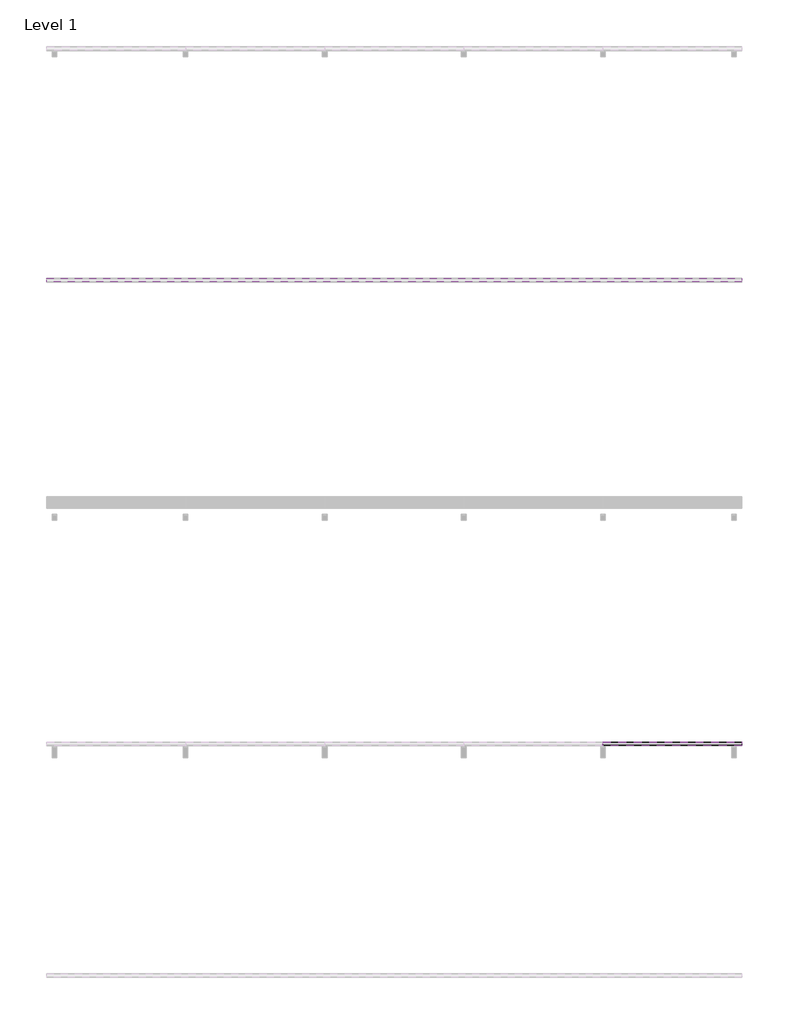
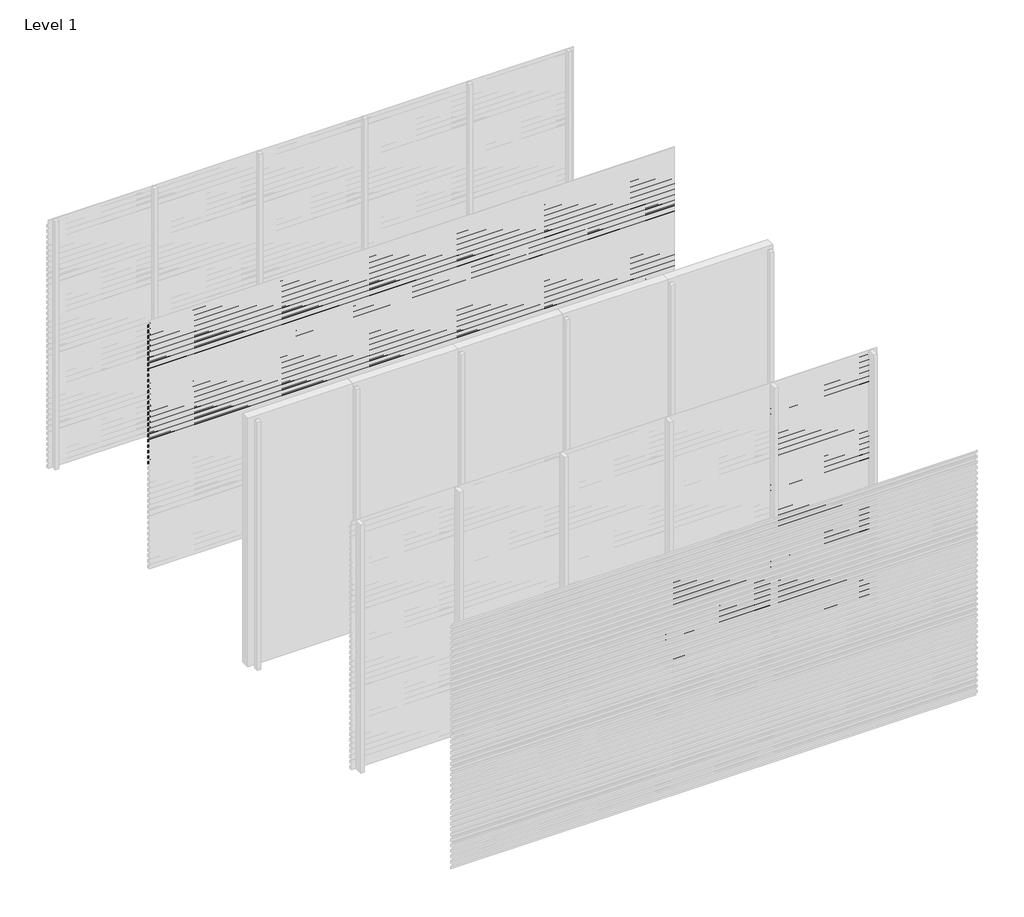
# One storey, part 15 of 33: 88 proxies.
"""IFC4 building model written with IfcOpenShell, lengths in millimetres."""

import ifcopenshell
import ifcopenshell.guid

model = None  # the IFC model being written
_history = None  # IfcOwnerHistory: only IFC2X3 demands one
_inside = {}  # id of a spatial element -> (the spatial element, [elements in it])
_under = {}  # id of a project, library or spatial element -> (it, [spatial elements below it])
_declared = {}  # id of a project -> (the project, [libraries it declares])
_typed = {}  # id of a type object -> (the type object, [elements of that type])
_made_of = {}  # id of a material, layer set ... -> (it, [elements and type objects made of it])


def new_model(schema):
    """Start an empty IFC model of exactly this schema.

    Asked for "IFC4X3", IfcOpenShell would pick the latest addendum, in which some entities
    have other attributes; the version numbers below select the first issue.
    IFC2X3 requires an IfcOwnerHistory on every rooted entity: one is made here for all.
    """
    global model, _history
    if schema == "IFC4X3":
        model = ifcopenshell.file(schema_version=(4, 3, 0, 0))
    else:
        model = ifcopenshell.file(schema=schema)
    _inside.clear()
    _under.clear()
    _declared.clear()
    _typed.clear()
    _made_of.clear()
    _history = None
    if model.schema == "IFC2X3":
        org = make("IfcOrganization", Name="unknown")
        user = make(
            "IfcPersonAndOrganization",
            ThePerson=make("IfcPerson", FamilyName="unknown"),
            TheOrganization=org,
        )
        app = make(
            "IfcApplication",
            ApplicationDeveloper=org,
            Version="unknown",
            ApplicationFullName="unknown",
            ApplicationIdentifier="unknown",
        )
        _history = make(
            "IfcOwnerHistory",
            OwningUser=user,
            OwningApplication=app,
            ChangeAction="ADDED",
            CreationDate=0,
        )
    return model


def make(cls, **values):
    """One entity of the class cls with the attributes given. An attribute that is None is left unset."""
    return model.create_entity(
        cls, **{name: value for name, value in values.items() if value is not None}
    )


def rooted(cls, **values):
    """An entity with a GlobalId (a new one), such as an element, a storey or a relation."""
    return make(cls, GlobalId=ifcopenshell.guid.new(), OwnerHistory=_history, **values)


def si_unit(unit_type, name, prefix=None):
    """IfcSIUnit, for example si_unit("LENGTHUNIT", "METRE", prefix="MILLI")."""
    return make("IfcSIUnit", UnitType=unit_type, Prefix=prefix, Name=name)


def assignment(units):
    """IfcUnitAssignment: the units of a project."""
    return None if units is None else make("IfcUnitAssignment", Units=units)


def point(xyz):
    """IfcCartesianPoint."""
    return None if xyz is None else make("IfcCartesianPoint", Coordinates=xyz)


def direction(xyz):
    """IfcDirection."""
    return None if xyz is None else make("IfcDirection", DirectionRatios=xyz)


def frame(location, z_axis=None, x_axis=None):
    """IfcAxis2Placement3D, a coordinate frame: its origin and axes. An axis left out is left unset."""
    return make(
        "IfcAxis2Placement3D",
        Location=point(location),
        Axis=direction(z_axis),
        RefDirection=direction(x_axis),
    )


def origin():
    """The frame at (0, 0, 0) with its axes left unset."""
    return frame((0.0, 0.0, 0.0))


def place(relative_to, where):
    """IfcLocalPlacement: puts the frame where relative to a parent placement (None: the world)."""
    return make(
        "IfcLocalPlacement", PlacementRelTo=relative_to, RelativePlacement=where
    )


def context(
    kind, dimensions, precision=None, world=None, true_north=None, identifier=None
):
    """IfcGeometricRepresentationContext, for example the 3D "Model" context."""
    return make(
        "IfcGeometricRepresentationContext",
        ContextIdentifier=identifier,
        ContextType=kind,
        CoordinateSpaceDimension=dimensions,
        Precision=precision,
        WorldCoordinateSystem=world,
        TrueNorth=true_north,
    )


def project(units=None, contexts=None):
    """IfcProject with its units and contexts."""
    return rooted(
        "IfcProject",
        Name="project",
        RepresentationContexts=contexts,
        UnitsInContext=assignment(units),
    )


def spatial(cls, under=None, at=None, **own):
    """A site, building, storey or space (cls), placed at a placement, below another one or the project."""
    s = rooted(cls, ObjectPlacement=at, **own)
    if under is not None:
        _under.setdefault(under.id(), (under, []))[1].append(s)
    return s


def polyline(points):
    """IfcPolyline through the points."""
    return make("IfcPolyline", Points=[point(p) for p in points])


def outline(outer, holes=None, kind="AREA"):
    """IfcArbitraryClosedProfileDef: a profile drawn as a closed curve; with holes, ...WithVoids."""
    if holes is None:
        return make("IfcArbitraryClosedProfileDef", ProfileType=kind, OuterCurve=outer)
    return make(
        "IfcArbitraryProfileDefWithVoids",
        ProfileType=kind,
        OuterCurve=outer,
        InnerCurves=holes,
    )


def extrude(swept, where, along, depth):
    """IfcExtrudedAreaSolid: the profile swept, set in the frame where, extruded along a direction by depth."""
    return make(
        "IfcExtrudedAreaSolid",
        SweptArea=swept,
        Position=where,
        ExtrudedDirection=direction(along),
        Depth=depth,
    )


def shape(context_of_items, identifier, shape_type, items):
    """IfcShapeRepresentation: the items that make up one representation, for example the "Body"."""
    return make(
        "IfcShapeRepresentation",
        ContextOfItems=context_of_items,
        RepresentationIdentifier=identifier,
        RepresentationType=shape_type,
        Items=items,
    )


def made_of(thing, what):
    """Note that an element or type object is made of a material, layer set ...; save() writes the relation."""
    if what is not None:
        _made_of.setdefault(what.id(), (what, []))[1].append(thing)
    return thing


def element(
    cls,
    number,
    at=None,
    inside=None,
    cuts=None,
    type_object=None,
    material=None,
    context=None,
    identifier="Body",
    shape_type=None,
    held_by="IfcProductDefinitionShape",
    body=None,
    shapes=None,
    **own,
):
    """One element of the class cls, such as IfcWall. Its Tag is "e" and its number.

    at: its placement. inside: the storey or other place that contains it. cuts: it is an
    opening in that element (IfcRelVoidsElement). A single representation is given by context,
    identifier, shape_type and body (its items); several are given by shapes. held_by: the class
    of the entity that holds the representations. save() writes the other relations.
    """
    e = rooted(cls, Tag="e%d" % number, ObjectPlacement=at, **own)
    if body is not None:
        shapes = [shape(context, identifier, shape_type, body)]
    if shapes is not None:
        e.Representation = make(held_by, Representations=shapes)
    if inside is not None:
        _inside.setdefault(inside.id(), (inside, []))[1].append(e)
    if cuts is not None:
        rooted(
            "IfcRelVoidsElement", RelatingBuildingElement=cuts, RelatedOpeningElement=e
        )
    if type_object is not None:
        _typed.setdefault(type_object.id(), (type_object, []))[1].append(e)
    return made_of(e, material)


def aggregate(whole, parts):
    """IfcRelAggregates: a whole, such as a stair, and the parts it consists of."""
    return rooted("IfcRelAggregates", RelatingObject=whole, RelatedObjects=parts)


def save(model, path):
    """Write the relations noted so far, then the file.

    IfcRelAggregates (storeys below a building ...), IfcRelContainedInSpatialStructure (elements
    in a storey), IfcRelDefinesByType, IfcRelAssociatesMaterial and IfcRelDeclares: one each for
    every whole, place, type object, material and project.
    """
    for whole, parts in _under.values():
        aggregate(whole, parts)
    for where, things in _inside.values():
        rooted(
            "IfcRelContainedInSpatialStructure",
            RelatedElements=things,
            RelatingStructure=where,
        )
    for kind, things in _typed.values():
        rooted("IfcRelDefinesByType", RelatedObjects=things, RelatingType=kind)
    for what, things in _made_of.values():
        rooted("IfcRelAssociatesMaterial", RelatedObjects=things, RelatingMaterial=what)
    for by, libraries in _declared.values():
        rooted("IfcRelDeclares", RelatingContext=by, RelatedDefinitions=libraries)
    model.write(path)


model = new_model("IFC4")

# Units and contexts
model_context = context("Model", 3, world=origin())
ifc_project = project(units=[si_unit("LENGTHUNIT", "METRE", prefix="MILLI")], contexts=[model_context])

# Site, building, storey
site = spatial("IfcSite", under=ifc_project)
building = spatial("IfcBuilding", under=site)
storey = spatial("IfcBuildingStorey", under=building, Name="Level 1", Elevation=0.0)

# Proxies
placement = place(None, origin())
element("IfcBuildingElementProxy", 1, Name="Wall Sweeps", at=placement, inside=storey, context=model_context, shape_type="SweptSolid", body=[
    extrude(outline(polyline([(-31967.0, 2930.0), (-31967.0, 2897.0), (-31968.25, 2897.7216933), (-31968.25, 2929.2872415), (-31998.0, 2950.0588647), (-31998.0, 2970.0), (-31996.75, 2970.0), (-31996.75, 2950.7716232), (-31967.0, 2930.0)])), frame((0.0, 0.0, 0.0), z_axis=(1.0, 0.0, 0.0), x_axis=(0.0, 1.0, 0.0)), (0.0, 0.0, 1.0), 6000.0),
])
element("IfcBuildingElementProxy", 2, Name="Wall Sweeps", at=placement, inside=storey, context=model_context, shape_type="SweptSolid", body=[
    extrude(outline(polyline([(-31967.0, 2864.0), (-31967.0, 2831.0), (-31968.25, 2831.7216933), (-31968.25, 2863.2872415), (-31998.0, 2884.0588647), (-31998.0, 2904.0), (-31996.75, 2904.0), (-31996.75, 2884.7716232), (-31967.0, 2864.0)])), frame((0.0, 0.0, 0.0), z_axis=(1.0, 0.0, 0.0), x_axis=(0.0, 1.0, 0.0)), (0.0, 0.0, 1.0), 6000.0),
])
element("IfcBuildingElementProxy", 3, Name="Wall Sweeps", at=placement, inside=storey, context=model_context, shape_type="SweptSolid", body=[
    extrude(outline(polyline([(-31967.0, 2798.0), (-31967.0, 2765.0), (-31968.25, 2765.7216933), (-31968.25, 2797.2872415), (-31998.0, 2818.0588647), (-31998.0, 2838.0), (-31996.75, 2838.0), (-31996.75, 2818.7716232), (-31967.0, 2798.0)])), frame((0.0, 0.0, 0.0), z_axis=(1.0, 0.0, 0.0), x_axis=(0.0, 1.0, 0.0)), (0.0, 0.0, 1.0), 6000.0),
])
element("IfcBuildingElementProxy", 4, Name="Wall Sweeps", at=placement, inside=storey, context=model_context, shape_type="SweptSolid", body=[
    extrude(outline(polyline([(-31967.0, 2732.0), (-31967.0, 2699.0), (-31968.25, 2699.7216933), (-31968.25, 2731.2872415), (-31998.0, 2752.0588647), (-31998.0, 2772.0), (-31996.75, 2772.0), (-31996.75, 2752.7716232), (-31967.0, 2732.0)])), frame((0.0, 0.0, 0.0), z_axis=(1.0, 0.0, 0.0), x_axis=(0.0, 1.0, 0.0)), (0.0, 0.0, 1.0), 6000.0),
])
element("IfcBuildingElementProxy", 5, Name="Wall Sweeps", at=placement, inside=storey, context=model_context, shape_type="SweptSolid", body=[
    extrude(outline(polyline([(-31967.0, 2666.0), (-31967.0, 2633.0), (-31968.25, 2633.7216933), (-31968.25, 2665.2872415), (-31998.0, 2686.0588647), (-31998.0, 2706.0), (-31996.75, 2706.0), (-31996.75, 2686.7716232), (-31967.0, 2666.0)])), frame((0.0, 0.0, 0.0), z_axis=(1.0, 0.0, 0.0), x_axis=(0.0, 1.0, 0.0)), (0.0, 0.0, 1.0), 6000.0),
])
element("IfcBuildingElementProxy", 6, Name="Wall Sweeps", at=placement, inside=storey, context=model_context, shape_type="SweptSolid", body=[
    extrude(outline(polyline([(-31967.0, 2600.0), (-31967.0, 2567.0), (-31968.25, 2567.7216933), (-31968.25, 2599.2872415), (-31998.0, 2620.0588647), (-31998.0, 2640.0), (-31996.75, 2640.0), (-31996.75, 2620.7716232), (-31967.0, 2600.0)])), frame((0.0, 0.0, 0.0), z_axis=(1.0, 0.0, 0.0), x_axis=(0.0, 1.0, 0.0)), (0.0, 0.0, 1.0), 6000.0),
])
element("IfcBuildingElementProxy", 7, Name="Wall Sweeps", at=placement, inside=storey, context=model_context, shape_type="SweptSolid", body=[
    extrude(outline(polyline([(-31967.0, 2534.0), (-31967.0, 2501.0), (-31968.25, 2501.7216933), (-31968.25, 2533.2872415), (-31998.0, 2554.0588647), (-31998.0, 2574.0), (-31996.75, 2574.0), (-31996.75, 2554.7716232), (-31967.0, 2534.0)])), frame((0.0, 0.0, 0.0), z_axis=(1.0, 0.0, 0.0), x_axis=(0.0, 1.0, 0.0)), (0.0, 0.0, 1.0), 6000.0),
])
element("IfcBuildingElementProxy", 8, Name="Wall Sweeps", at=placement, inside=storey, context=model_context, shape_type="SweptSolid", body=[
    extrude(outline(polyline([(-31967.0, 2468.0), (-31967.0, 2435.0), (-31968.25, 2435.7216933), (-31968.25, 2467.2872415), (-31998.0, 2488.0588647), (-31998.0, 2508.0), (-31996.75, 2508.0), (-31996.75, 2488.7716232), (-31967.0, 2468.0)])), frame((0.0, 0.0, 0.0), z_axis=(1.0, 0.0, 0.0), x_axis=(0.0, 1.0, 0.0)), (0.0, 0.0, 1.0), 6000.0),
])
element("IfcBuildingElementProxy", 9, Name="Wall Sweeps", at=placement, inside=storey, context=model_context, shape_type="SweptSolid", body=[
    extrude(outline(polyline([(-31967.0, 2402.0), (-31967.0, 2369.0), (-31968.25, 2369.7216933), (-31968.25, 2401.2872415), (-31998.0, 2422.0588647), (-31998.0, 2442.0), (-31996.75, 2442.0), (-31996.75, 2422.7716232), (-31967.0, 2402.0)])), frame((0.0, 0.0, 0.0), z_axis=(1.0, 0.0, 0.0), x_axis=(0.0, 1.0, 0.0)), (0.0, 0.0, 1.0), 6000.0),
])
element("IfcBuildingElementProxy", 10, Name="Wall Sweeps", at=placement, inside=storey, context=model_context, shape_type="SweptSolid", body=[
    extrude(outline(polyline([(-31967.0, 2336.0), (-31967.0, 2303.0), (-31968.25, 2303.7216933), (-31968.25, 2335.2872415), (-31998.0, 2356.0588647), (-31998.0, 2376.0), (-31996.75, 2376.0), (-31996.75, 2356.7716232), (-31967.0, 2336.0)])), frame((0.0, 0.0, 0.0), z_axis=(1.0, 0.0, 0.0), x_axis=(0.0, 1.0, 0.0)), (0.0, 0.0, 1.0), 6000.0),
])
element("IfcBuildingElementProxy", 11, Name="Wall Sweeps", at=placement, inside=storey, context=model_context, shape_type="SweptSolid", body=[
    extrude(outline(polyline([(-31967.0, 2270.0), (-31967.0, 2237.0), (-31968.25, 2237.7216933), (-31968.25, 2269.2872415), (-31998.0, 2290.0588647), (-31998.0, 2310.0), (-31996.75, 2310.0), (-31996.75, 2290.7716232), (-31967.0, 2270.0)])), frame((0.0, 0.0, 0.0), z_axis=(1.0, 0.0, 0.0), x_axis=(0.0, 1.0, 0.0)), (0.0, 0.0, 1.0), 6000.0),
])
element("IfcBuildingElementProxy", 12, Name="Wall Sweeps", at=placement, inside=storey, context=model_context, shape_type="SweptSolid", body=[
    extrude(outline(polyline([(-31967.0, 2204.0), (-31967.0, 2171.0), (-31968.25, 2171.7216933), (-31968.25, 2203.2872415), (-31998.0, 2224.0588647), (-31998.0, 2244.0), (-31996.75, 2244.0), (-31996.75, 2224.7716232), (-31967.0, 2204.0)])), frame((0.0, 0.0, 0.0), z_axis=(1.0, 0.0, 0.0), x_axis=(0.0, 1.0, 0.0)), (0.0, 0.0, 1.0), 6000.0),
])
element("IfcBuildingElementProxy", 13, Name="Wall Sweeps", at=placement, inside=storey, context=model_context, shape_type="SweptSolid", body=[
    extrude(outline(polyline([(-31967.0, 2138.0), (-31967.0, 2105.0), (-31968.25, 2105.7216933), (-31968.25, 2137.2872415), (-31998.0, 2158.0588647), (-31998.0, 2178.0), (-31996.75, 2178.0), (-31996.75, 2158.7716232), (-31967.0, 2138.0)])), frame((0.0, 0.0, 0.0), z_axis=(1.0, 0.0, 0.0), x_axis=(0.0, 1.0, 0.0)), (0.0, 0.0, 1.0), 6000.0),
])
element("IfcBuildingElementProxy", 14, Name="Wall Sweeps", at=placement, inside=storey, context=model_context, shape_type="SweptSolid", body=[
    extrude(outline(polyline([(-31967.0, 2072.0), (-31967.0, 2039.0), (-31968.25, 2039.7216933), (-31968.25, 2071.2872415), (-31998.0, 2092.0588647), (-31998.0, 2112.0), (-31996.75, 2112.0), (-31996.75, 2092.7716232), (-31967.0, 2072.0)])), frame((0.0, 0.0, 0.0), z_axis=(1.0, 0.0, 0.0), x_axis=(0.0, 1.0, 0.0)), (0.0, 0.0, 1.0), 6000.0),
])
element("IfcBuildingElementProxy", 15, Name="Wall Sweeps", at=placement, inside=storey, context=model_context, shape_type="SweptSolid", body=[
    extrude(outline(polyline([(-31967.0, 2006.0), (-31967.0, 1973.0), (-31968.25, 1973.7216933), (-31968.25, 2005.2872415), (-31998.0, 2026.0588647), (-31998.0, 2046.0), (-31996.75, 2046.0), (-31996.75, 2026.7716232), (-31967.0, 2006.0)])), frame((0.0, 0.0, 0.0), z_axis=(1.0, 0.0, 0.0), x_axis=(0.0, 1.0, 0.0)), (0.0, 0.0, 1.0), 6000.0),
])
element("IfcBuildingElementProxy", 16, Name="Wall Sweeps", at=placement, inside=storey, context=model_context, shape_type="SweptSolid", body=[
    extrude(outline(polyline([(-31967.0, 1940.0), (-31967.0, 1907.0), (-31968.25, 1907.7216933), (-31968.25, 1939.2872415), (-31998.0, 1960.0588647), (-31998.0, 1980.0), (-31996.75, 1980.0), (-31996.75, 1960.7716232), (-31967.0, 1940.0)])), frame((0.0, 0.0, 0.0), z_axis=(1.0, 0.0, 0.0), x_axis=(0.0, 1.0, 0.0)), (0.0, 0.0, 1.0), 6000.0),
])
element("IfcBuildingElementProxy", 17, Name="Wall Sweeps", at=placement, inside=storey, context=model_context, shape_type="SweptSolid", body=[
    extrude(outline(polyline([(-31967.0, 1874.0), (-31967.0, 1841.0), (-31968.25, 1841.7216933), (-31968.25, 1873.2872415), (-31998.0, 1894.0588647), (-31998.0, 1914.0), (-31996.75, 1914.0), (-31996.75, 1894.7716232), (-31967.0, 1874.0)])), frame((0.0, 0.0, 0.0), z_axis=(1.0, 0.0, 0.0), x_axis=(0.0, 1.0, 0.0)), (0.0, 0.0, 1.0), 6000.0),
])
element("IfcBuildingElementProxy", 18, Name="Wall Sweeps", at=placement, inside=storey, context=model_context, shape_type="SweptSolid", body=[
    extrude(outline(polyline([(-31967.0, 1808.0), (-31967.0, 1775.0), (-31968.25, 1775.7216933), (-31968.25, 1807.2872415), (-31998.0, 1828.0588647), (-31998.0, 1848.0), (-31996.75, 1848.0), (-31996.75, 1828.7716232), (-31967.0, 1808.0)])), frame((0.0, 0.0, 0.0), z_axis=(1.0, 0.0, 0.0), x_axis=(0.0, 1.0, 0.0)), (0.0, 0.0, 1.0), 6000.0),
])
element("IfcBuildingElementProxy", 19, Name="Wall Sweeps", at=placement, inside=storey, context=model_context, shape_type="SweptSolid", body=[
    extrude(outline(polyline([(-31967.0, 1742.0), (-31967.0, 1709.0), (-31968.25, 1709.7216933), (-31968.25, 1741.2872415), (-31998.0, 1762.0588647), (-31998.0, 1782.0), (-31996.75, 1782.0), (-31996.75, 1762.7716232), (-31967.0, 1742.0)])), frame((0.0, 0.0, 0.0), z_axis=(1.0, 0.0, 0.0), x_axis=(0.0, 1.0, 0.0)), (0.0, 0.0, 1.0), 6000.0),
])
element("IfcBuildingElementProxy", 20, Name="Wall Sweeps", at=placement, inside=storey, context=model_context, shape_type="SweptSolid", body=[
    extrude(outline(polyline([(-31967.0, 1676.0), (-31967.0, 1643.0), (-31968.25, 1643.7216933), (-31968.25, 1675.2872415), (-31998.0, 1696.0588647), (-31998.0, 1716.0), (-31996.75, 1716.0), (-31996.75, 1696.7716232), (-31967.0, 1676.0)])), frame((0.0, 0.0, 0.0), z_axis=(1.0, 0.0, 0.0), x_axis=(0.0, 1.0, 0.0)), (0.0, 0.0, 1.0), 6000.0),
])
element("IfcBuildingElementProxy", 21, Name="Wall Sweeps", at=placement, inside=storey, context=model_context, shape_type="SweptSolid", body=[
    extrude(outline(polyline([(-31967.0, 1610.0), (-31967.0, 1577.0), (-31968.25, 1577.7216933), (-31968.25, 1609.2872415), (-31998.0, 1630.0588647), (-31998.0, 1650.0), (-31996.75, 1650.0), (-31996.75, 1630.7716232), (-31967.0, 1610.0)])), frame((0.0, 0.0, 0.0), z_axis=(1.0, 0.0, 0.0), x_axis=(0.0, 1.0, 0.0)), (0.0, 0.0, 1.0), 6000.0),
])
element("IfcBuildingElementProxy", 22, Name="Wall Sweeps", at=placement, inside=storey, context=model_context, shape_type="SweptSolid", body=[
    extrude(outline(polyline([(-31967.0, 1544.0), (-31967.0, 1511.0), (-31968.25, 1511.7216933), (-31968.25, 1543.2872415), (-31998.0, 1564.0588647), (-31998.0, 1584.0), (-31996.75, 1584.0), (-31996.75, 1564.7716232), (-31967.0, 1544.0)])), frame((0.0, 0.0, 0.0), z_axis=(1.0, 0.0, 0.0), x_axis=(0.0, 1.0, 0.0)), (0.0, 0.0, 1.0), 6000.0),
])
element("IfcBuildingElementProxy", 23, Name="Wall Sweeps", at=placement, inside=storey, context=model_context, shape_type="SweptSolid", body=[
    extrude(outline(polyline([(-31967.0, 1478.0), (-31967.0, 1445.0), (-31968.25, 1445.7216933), (-31968.25, 1477.2872415), (-31998.0, 1498.0588647), (-31998.0, 1518.0), (-31996.75, 1518.0), (-31996.75, 1498.7716232), (-31967.0, 1478.0)])), frame((0.0, 0.0, 0.0), z_axis=(1.0, 0.0, 0.0), x_axis=(0.0, 1.0, 0.0)), (0.0, 0.0, 1.0), 6000.0),
])
element("IfcBuildingElementProxy", 24, Name="Wall Sweeps", at=placement, inside=storey, context=model_context, shape_type="SweptSolid", body=[
    extrude(outline(polyline([(-31967.0, 1412.0), (-31967.0, 1379.0), (-31968.25, 1379.7216933), (-31968.25, 1411.2872415), (-31998.0, 1432.0588647), (-31998.0, 1452.0), (-31996.75, 1452.0), (-31996.75, 1432.7716232), (-31967.0, 1412.0)])), frame((0.0, 0.0, 0.0), z_axis=(1.0, 0.0, 0.0), x_axis=(0.0, 1.0, 0.0)), (0.0, 0.0, 1.0), 6000.0),
])
element("IfcBuildingElementProxy", 25, Name="Wall Sweeps", at=placement, inside=storey, context=model_context, shape_type="SweptSolid", body=[
    extrude(outline(polyline([(-31967.0, 1346.0), (-31967.0, 1313.0), (-31968.25, 1313.7216933), (-31968.25, 1345.2872415), (-31998.0, 1366.0588647), (-31998.0, 1386.0), (-31996.75, 1386.0), (-31996.75, 1366.7716232), (-31967.0, 1346.0)])), frame((0.0, 0.0, 0.0), z_axis=(1.0, 0.0, 0.0), x_axis=(0.0, 1.0, 0.0)), (0.0, 0.0, 1.0), 6000.0),
])
element("IfcBuildingElementProxy", 26, Name="Wall Sweeps", at=placement, inside=storey, context=model_context, shape_type="SweptSolid", body=[
    extrude(outline(polyline([(-31967.0, 1280.0), (-31967.0, 1247.0), (-31968.25, 1247.7216933), (-31968.25, 1279.2872415), (-31998.0, 1300.0588647), (-31998.0, 1320.0), (-31996.75, 1320.0), (-31996.75, 1300.7716232), (-31967.0, 1280.0)])), frame((0.0, 0.0, 0.0), z_axis=(1.0, 0.0, 0.0), x_axis=(0.0, 1.0, 0.0)), (0.0, 0.0, 1.0), 6000.0),
])
element("IfcBuildingElementProxy", 27, Name="Wall Sweeps", at=placement, inside=storey, context=model_context, shape_type="SweptSolid", body=[
    extrude(outline(polyline([(-35967.0, 1082.0), (-35967.0, 1049.0), (-35968.25, 1049.7216933), (-35968.25, 1081.2872415), (-35998.0, 1102.0588647), (-35998.0, 1122.0), (-35996.75, 1122.0), (-35996.75, 1102.7716232), (-35967.0, 1082.0)])), frame((3600.0, 0.0, 0.0), z_axis=(1.0, 0.0, 0.0), x_axis=(0.0, 1.0, 0.0)), (0.0, 0.0, 1.0), 1200.0),
])
element("IfcBuildingElementProxy", 28, Name="Wall Sweeps", at=placement, inside=storey, context=model_context, shape_type="SweptSolid", body=[
    extrude(outline(polyline([(-35967.0, 1016.0), (-35967.0, 983.0), (-35968.25, 983.7216933), (-35968.25, 1015.2872415), (-35998.0, 1036.0588647), (-35998.0, 1056.0), (-35996.75, 1056.0), (-35996.75, 1036.7716232), (-35967.0, 1016.0)])), frame((3600.0, 0.0, 0.0), z_axis=(1.0, 0.0, 0.0), x_axis=(0.0, 1.0, 0.0)), (0.0, 0.0, 1.0), 1200.0),
])
element("IfcBuildingElementProxy", 29, Name="Wall Sweeps", at=placement, inside=storey, context=model_context, shape_type="SweptSolid", body=[
    extrude(outline(polyline([(-35967.0, 950.0), (-35967.0, 917.0), (-35968.25, 917.7216933), (-35968.25, 949.2872415), (-35998.0, 970.0588647), (-35998.0, 990.0), (-35996.75, 990.0), (-35996.75, 970.7716232), (-35967.0, 950.0)])), frame((3600.0, 0.0, 0.0), z_axis=(1.0, 0.0, 0.0), x_axis=(0.0, 1.0, 0.0)), (0.0, 0.0, 1.0), 1200.0),
])
element("IfcBuildingElementProxy", 30, Name="Wall Sweeps", at=placement, inside=storey, context=model_context, shape_type="SweptSolid", body=[
    extrude(outline(polyline([(-35967.0, 884.0), (-35967.0, 851.0), (-35968.25, 851.7216933), (-35968.25, 883.2872415), (-35998.0, 904.0588647), (-35998.0, 924.0), (-35996.75, 924.0), (-35996.75, 904.7716232), (-35967.0, 884.0)])), frame((3600.0, 0.0, 0.0), z_axis=(1.0, 0.0, 0.0), x_axis=(0.0, 1.0, 0.0)), (0.0, 0.0, 1.0), 1200.0),
])
element("IfcBuildingElementProxy", 31, Name="Wall Sweeps", at=placement, inside=storey, context=model_context, shape_type="SweptSolid", body=[
    extrude(outline(polyline([(-35967.0, 818.0), (-35967.0, 785.0), (-35968.25, 785.7216933), (-35968.25, 817.2872415), (-35998.0, 838.0588647), (-35998.0, 858.0), (-35996.75, 858.0), (-35996.75, 838.7716232), (-35967.0, 818.0)])), frame((3600.0, 0.0, 0.0), z_axis=(1.0, 0.0, 0.0), x_axis=(0.0, 1.0, 0.0)), (0.0, 0.0, 1.0), 1200.0),
])
element("IfcBuildingElementProxy", 32, Name="Wall Sweeps", at=placement, inside=storey, context=model_context, shape_type="SweptSolid", body=[
    extrude(outline(polyline([(-35967.0, 752.0), (-35967.0, 719.0), (-35968.25, 719.7216933), (-35968.25, 751.2872415), (-35998.0, 772.0588647), (-35998.0, 792.0), (-35996.75, 792.0), (-35996.75, 772.7716232), (-35967.0, 752.0)])), frame((3600.0, 0.0, 0.0), z_axis=(1.0, 0.0, 0.0), x_axis=(0.0, 1.0, 0.0)), (0.0, 0.0, 1.0), 1200.0),
])
element("IfcBuildingElementProxy", 33, Name="Wall Sweeps", at=placement, inside=storey, context=model_context, shape_type="SweptSolid", body=[
    extrude(outline(polyline([(-35967.0, 686.0), (-35967.0, 653.0), (-35968.25, 653.7216933), (-35968.25, 685.2872415), (-35998.0, 706.0588647), (-35998.0, 726.0), (-35996.75, 726.0), (-35996.75, 706.7716232), (-35967.0, 686.0)])), frame((3600.0, 0.0, 0.0), z_axis=(1.0, 0.0, 0.0), x_axis=(0.0, 1.0, 0.0)), (0.0, 0.0, 1.0), 1200.0),
])
element("IfcBuildingElementProxy", 34, Name="Wall Sweeps", at=placement, inside=storey, context=model_context, shape_type="SweptSolid", body=[
    extrude(outline(polyline([(-35967.0, 620.0), (-35967.0, 587.0), (-35968.25, 587.7216933), (-35968.25, 619.2872415), (-35998.0, 640.0588647), (-35998.0, 660.0), (-35996.75, 660.0), (-35996.75, 640.7716232), (-35967.0, 620.0)])), frame((3600.0, 0.0, 0.0), z_axis=(1.0, 0.0, 0.0), x_axis=(0.0, 1.0, 0.0)), (0.0, 0.0, 1.0), 1200.0),
])
element("IfcBuildingElementProxy", 35, Name="Wall Sweeps", at=placement, inside=storey, context=model_context, shape_type="SweptSolid", body=[
    extrude(outline(polyline([(-35967.0, 554.0), (-35967.0, 521.0), (-35968.25, 521.7216933), (-35968.25, 553.2872415), (-35998.0, 574.0588647), (-35998.0, 594.0), (-35996.75, 594.0), (-35996.75, 574.7716232), (-35967.0, 554.0)])), frame((3600.0, 0.0, 0.0), z_axis=(1.0, 0.0, 0.0), x_axis=(0.0, 1.0, 0.0)), (0.0, 0.0, 1.0), 1200.0),
])
element("IfcBuildingElementProxy", 36, Name="Wall Sweeps", at=placement, inside=storey, context=model_context, shape_type="SweptSolid", body=[
    extrude(outline(polyline([(-35967.0, 488.0), (-35967.0, 455.0), (-35968.25, 455.7216933), (-35968.25, 487.2872415), (-35998.0, 508.0588647), (-35998.0, 528.0), (-35996.75, 528.0), (-35996.75, 508.7716232), (-35967.0, 488.0)])), frame((3600.0, 0.0, 0.0), z_axis=(1.0, 0.0, 0.0), x_axis=(0.0, 1.0, 0.0)), (0.0, 0.0, 1.0), 1200.0),
])
element("IfcBuildingElementProxy", 37, Name="Wall Sweeps", at=placement, inside=storey, context=model_context, shape_type="SweptSolid", body=[
    extrude(outline(polyline([(-35967.0, 422.0), (-35967.0, 389.0), (-35968.25, 389.7216933), (-35968.25, 421.2872415), (-35998.0, 442.0588647), (-35998.0, 462.0), (-35996.75, 462.0), (-35996.75, 442.7716232), (-35967.0, 422.0)])), frame((3600.0, 0.0, 0.0), z_axis=(1.0, 0.0, 0.0), x_axis=(0.0, 1.0, 0.0)), (0.0, 0.0, 1.0), 1200.0),
])
element("IfcBuildingElementProxy", 38, Name="Wall Sweeps", at=placement, inside=storey, context=model_context, shape_type="SweptSolid", body=[
    extrude(outline(polyline([(-35967.0, 356.0), (-35967.0, 323.0), (-35968.25, 323.7216933), (-35968.25, 355.2872415), (-35998.0, 376.0588647), (-35998.0, 396.0), (-35996.75, 396.0), (-35996.75, 376.7716232), (-35967.0, 356.0)])), frame((3600.0, 0.0, 0.0), z_axis=(1.0, 0.0, 0.0), x_axis=(0.0, 1.0, 0.0)), (0.0, 0.0, 1.0), 1200.0),
])
element("IfcBuildingElementProxy", 39, Name="Wall Sweeps", at=placement, inside=storey, context=model_context, shape_type="SweptSolid", body=[
    extrude(outline(polyline([(-35967.0, 290.0), (-35967.0, 257.0), (-35968.25, 257.7216933), (-35968.25, 289.2872415), (-35998.0, 310.0588647), (-35998.0, 330.0), (-35996.75, 330.0), (-35996.75, 310.7716232), (-35967.0, 290.0)])), frame((3600.0, 0.0, 0.0), z_axis=(1.0, 0.0, 0.0), x_axis=(0.0, 1.0, 0.0)), (0.0, 0.0, 1.0), 1200.0),
])
element("IfcBuildingElementProxy", 40, Name="Wall Sweeps", at=placement, inside=storey, context=model_context, shape_type="SweptSolid", body=[
    extrude(outline(polyline([(-35967.0, 224.0), (-35967.0, 191.0), (-35968.25, 191.7216933), (-35968.25, 223.2872415), (-35998.0, 244.0588647), (-35998.0, 264.0), (-35996.75, 264.0), (-35996.75, 244.7716232), (-35967.0, 224.0)])), frame((3600.0, 0.0, 0.0), z_axis=(1.0, 0.0, 0.0), x_axis=(0.0, 1.0, 0.0)), (0.0, 0.0, 1.0), 1200.0),
])
element("IfcBuildingElementProxy", 41, Name="Wall Sweeps", at=placement, inside=storey, context=model_context, shape_type="SweptSolid", body=[
    extrude(outline(polyline([(-35967.0, 158.0), (-35967.0, 125.0), (-35968.25, 125.7216933), (-35968.25, 157.2872415), (-35998.0, 178.0588647), (-35998.0, 198.0), (-35996.75, 198.0), (-35996.75, 178.7716232), (-35967.0, 158.0)])), frame((3600.0, 0.0, 0.0), z_axis=(1.0, 0.0, 0.0), x_axis=(0.0, 1.0, 0.0)), (0.0, 0.0, 1.0), 1200.0),
])
element("IfcBuildingElementProxy", 42, Name="Wall Sweeps", at=placement, inside=storey, context=model_context, shape_type="SweptSolid", body=[
    extrude(outline(polyline([(-35967.0, 92.0), (-35967.0, 59.0), (-35968.25, 59.7216933), (-35968.25, 91.2872415), (-35998.0, 112.0588647), (-35998.0, 132.0), (-35996.75, 132.0), (-35996.75, 112.7716232), (-35967.0, 92.0)])), frame((3600.0, 0.0, 0.0), z_axis=(1.0, 0.0, 0.0), x_axis=(0.0, 1.0, 0.0)), (0.0, 0.0, 1.0), 1200.0),
])
element("IfcBuildingElementProxy", 43, Name="Wall Sweeps", at=placement, inside=storey, context=model_context, shape_type="SweptSolid", body=[
    extrude(outline(polyline([(-35967.0, 26.0), (-35967.0, -7.0), (-35968.25, -6.2783067), (-35968.25, 25.2872415), (-35998.0, 46.0588647), (-35998.0, 66.0), (-35996.75, 66.0), (-35996.75, 46.7716232), (-35967.0, 26.0)])), frame((3600.0, 0.0, 0.0), z_axis=(1.0, 0.0, 0.0), x_axis=(0.0, 1.0, 0.0)), (0.0, 0.0, 1.0), 1200.0),
])
element("IfcBuildingElementProxy", 44, Name="Wall Sweeps", at=placement, inside=storey, context=model_context, shape_type="SweptSolid", body=[
    extrude(outline(polyline([(-35967.0, 2930.0), (-35967.0, 2897.0), (-35968.25, 2897.7216933), (-35968.25, 2929.2872415), (-35998.0, 2950.0588647), (-35998.0, 2970.0), (-35996.75, 2970.0), (-35996.75, 2950.7716232), (-35967.0, 2930.0)])), frame((4800.0, 0.0, 0.0), z_axis=(1.0, 0.0, 0.0), x_axis=(0.0, 1.0, 0.0)), (0.0, 0.0, 1.0), 1200.0),
])
element("IfcBuildingElementProxy", 45, Name="Wall Sweeps", at=placement, inside=storey, context=model_context, shape_type="SweptSolid", body=[
    extrude(outline(polyline([(-35967.0, 2864.0), (-35967.0, 2831.0), (-35968.25, 2831.7216933), (-35968.25, 2863.2872415), (-35998.0, 2884.0588647), (-35998.0, 2904.0), (-35996.75, 2904.0), (-35996.75, 2884.7716232), (-35967.0, 2864.0)])), frame((4800.0, 0.0, 0.0), z_axis=(1.0, 0.0, 0.0), x_axis=(0.0, 1.0, 0.0)), (0.0, 0.0, 1.0), 1200.0),
])
element("IfcBuildingElementProxy", 46, Name="Wall Sweeps", at=placement, inside=storey, context=model_context, shape_type="SweptSolid", body=[
    extrude(outline(polyline([(-35967.0, 2798.0), (-35967.0, 2765.0), (-35968.25, 2765.7216933), (-35968.25, 2797.2872415), (-35998.0, 2818.0588647), (-35998.0, 2838.0), (-35996.75, 2838.0), (-35996.75, 2818.7716232), (-35967.0, 2798.0)])), frame((4800.0, 0.0, 0.0), z_axis=(1.0, 0.0, 0.0), x_axis=(0.0, 1.0, 0.0)), (0.0, 0.0, 1.0), 1200.0),
])
element("IfcBuildingElementProxy", 47, Name="Wall Sweeps", at=placement, inside=storey, context=model_context, shape_type="SweptSolid", body=[
    extrude(outline(polyline([(-35967.0, 2732.0), (-35967.0, 2699.0), (-35968.25, 2699.7216933), (-35968.25, 2731.2872415), (-35998.0, 2752.0588647), (-35998.0, 2772.0), (-35996.75, 2772.0), (-35996.75, 2752.7716232), (-35967.0, 2732.0)])), frame((4800.0, 0.0, 0.0), z_axis=(1.0, 0.0, 0.0), x_axis=(0.0, 1.0, 0.0)), (0.0, 0.0, 1.0), 1200.0),
])
element("IfcBuildingElementProxy", 48, Name="Wall Sweeps", at=placement, inside=storey, context=model_context, shape_type="SweptSolid", body=[
    extrude(outline(polyline([(-35967.0, 2666.0), (-35967.0, 2633.0), (-35968.25, 2633.7216933), (-35968.25, 2665.2872415), (-35998.0, 2686.0588647), (-35998.0, 2706.0), (-35996.75, 2706.0), (-35996.75, 2686.7716232), (-35967.0, 2666.0)])), frame((4800.0, 0.0, 0.0), z_axis=(1.0, 0.0, 0.0), x_axis=(0.0, 1.0, 0.0)), (0.0, 0.0, 1.0), 1200.0),
])
element("IfcBuildingElementProxy", 49, Name="Wall Sweeps", at=placement, inside=storey, context=model_context, shape_type="SweptSolid", body=[
    extrude(outline(polyline([(-35967.0, 2600.0), (-35967.0, 2567.0), (-35968.25, 2567.7216933), (-35968.25, 2599.2872415), (-35998.0, 2620.0588647), (-35998.0, 2640.0), (-35996.75, 2640.0), (-35996.75, 2620.7716232), (-35967.0, 2600.0)])), frame((4800.0, 0.0, 0.0), z_axis=(1.0, 0.0, 0.0), x_axis=(0.0, 1.0, 0.0)), (0.0, 0.0, 1.0), 1200.0),
])
element("IfcBuildingElementProxy", 50, Name="Wall Sweeps", at=placement, inside=storey, context=model_context, shape_type="SweptSolid", body=[
    extrude(outline(polyline([(-35967.0, 2534.0), (-35967.0, 2501.0), (-35968.25, 2501.7216933), (-35968.25, 2533.2872415), (-35998.0, 2554.0588647), (-35998.0, 2574.0), (-35996.75, 2574.0), (-35996.75, 2554.7716232), (-35967.0, 2534.0)])), frame((4800.0, 0.0, 0.0), z_axis=(1.0, 0.0, 0.0), x_axis=(0.0, 1.0, 0.0)), (0.0, 0.0, 1.0), 1200.0),
])
element("IfcBuildingElementProxy", 51, Name="Wall Sweeps", at=placement, inside=storey, context=model_context, shape_type="SweptSolid", body=[
    extrude(outline(polyline([(-35967.0, 2468.0), (-35967.0, 2435.0), (-35968.25, 2435.7216933), (-35968.25, 2467.2872415), (-35998.0, 2488.0588647), (-35998.0, 2508.0), (-35996.75, 2508.0), (-35996.75, 2488.7716232), (-35967.0, 2468.0)])), frame((4800.0, 0.0, 0.0), z_axis=(1.0, 0.0, 0.0), x_axis=(0.0, 1.0, 0.0)), (0.0, 0.0, 1.0), 1200.0),
])
element("IfcBuildingElementProxy", 52, Name="Wall Sweeps", at=placement, inside=storey, context=model_context, shape_type="SweptSolid", body=[
    extrude(outline(polyline([(-35967.0, 2402.0), (-35967.0, 2369.0), (-35968.25, 2369.7216933), (-35968.25, 2401.2872415), (-35998.0, 2422.0588647), (-35998.0, 2442.0), (-35996.75, 2442.0), (-35996.75, 2422.7716232), (-35967.0, 2402.0)])), frame((4800.0, 0.0, 0.0), z_axis=(1.0, 0.0, 0.0), x_axis=(0.0, 1.0, 0.0)), (0.0, 0.0, 1.0), 1200.0),
])
element("IfcBuildingElementProxy", 53, Name="Wall Sweeps", at=placement, inside=storey, context=model_context, shape_type="SweptSolid", body=[
    extrude(outline(polyline([(-35967.0, 2336.0), (-35967.0, 2303.0), (-35968.25, 2303.7216933), (-35968.25, 2335.2872415), (-35998.0, 2356.0588647), (-35998.0, 2376.0), (-35996.75, 2376.0), (-35996.75, 2356.7716232), (-35967.0, 2336.0)])), frame((4800.0, 0.0, 0.0), z_axis=(1.0, 0.0, 0.0), x_axis=(0.0, 1.0, 0.0)), (0.0, 0.0, 1.0), 1200.0),
])
element("IfcBuildingElementProxy", 54, Name="Wall Sweeps", at=placement, inside=storey, context=model_context, shape_type="SweptSolid", body=[
    extrude(outline(polyline([(-35967.0, 2270.0), (-35967.0, 2237.0), (-35968.25, 2237.7216933), (-35968.25, 2269.2872415), (-35998.0, 2290.0588647), (-35998.0, 2310.0), (-35996.75, 2310.0), (-35996.75, 2290.7716232), (-35967.0, 2270.0)])), frame((4800.0, 0.0, 0.0), z_axis=(1.0, 0.0, 0.0), x_axis=(0.0, 1.0, 0.0)), (0.0, 0.0, 1.0), 1200.0),
])
element("IfcBuildingElementProxy", 55, Name="Wall Sweeps", at=placement, inside=storey, context=model_context, shape_type="SweptSolid", body=[
    extrude(outline(polyline([(-35967.0, 2204.0), (-35967.0, 2171.0), (-35968.25, 2171.7216933), (-35968.25, 2203.2872415), (-35998.0, 2224.0588647), (-35998.0, 2244.0), (-35996.75, 2244.0), (-35996.75, 2224.7716232), (-35967.0, 2204.0)])), frame((4800.0, 0.0, 0.0), z_axis=(1.0, 0.0, 0.0), x_axis=(0.0, 1.0, 0.0)), (0.0, 0.0, 1.0), 1200.0),
])
element("IfcBuildingElementProxy", 56, Name="Wall Sweeps", at=placement, inside=storey, context=model_context, shape_type="SweptSolid", body=[
    extrude(outline(polyline([(-35967.0, 2138.0), (-35967.0, 2105.0), (-35968.25, 2105.7216933), (-35968.25, 2137.2872415), (-35998.0, 2158.0588647), (-35998.0, 2178.0), (-35996.75, 2178.0), (-35996.75, 2158.7716232), (-35967.0, 2138.0)])), frame((4800.0, 0.0, 0.0), z_axis=(1.0, 0.0, 0.0), x_axis=(0.0, 1.0, 0.0)), (0.0, 0.0, 1.0), 1200.0),
])
element("IfcBuildingElementProxy", 57, Name="Wall Sweeps", at=placement, inside=storey, context=model_context, shape_type="SweptSolid", body=[
    extrude(outline(polyline([(-35967.0, 2072.0), (-35967.0, 2039.0), (-35968.25, 2039.7216933), (-35968.25, 2071.2872415), (-35998.0, 2092.0588647), (-35998.0, 2112.0), (-35996.75, 2112.0), (-35996.75, 2092.7716232), (-35967.0, 2072.0)])), frame((4800.0, 0.0, 0.0), z_axis=(1.0, 0.0, 0.0), x_axis=(0.0, 1.0, 0.0)), (0.0, 0.0, 1.0), 1200.0),
])
element("IfcBuildingElementProxy", 58, Name="Wall Sweeps", at=placement, inside=storey, context=model_context, shape_type="SweptSolid", body=[
    extrude(outline(polyline([(-35967.0, 2006.0), (-35967.0, 1973.0), (-35968.25, 1973.7216933), (-35968.25, 2005.2872415), (-35998.0, 2026.0588647), (-35998.0, 2046.0), (-35996.75, 2046.0), (-35996.75, 2026.7716232), (-35967.0, 2006.0)])), frame((4800.0, 0.0, 0.0), z_axis=(1.0, 0.0, 0.0), x_axis=(0.0, 1.0, 0.0)), (0.0, 0.0, 1.0), 1200.0),
])
element("IfcBuildingElementProxy", 59, Name="Wall Sweeps", at=placement, inside=storey, context=model_context, shape_type="SweptSolid", body=[
    extrude(outline(polyline([(-35967.0, 1940.0), (-35967.0, 1907.0), (-35968.25, 1907.7216933), (-35968.25, 1939.2872415), (-35998.0, 1960.0588647), (-35998.0, 1980.0), (-35996.75, 1980.0), (-35996.75, 1960.7716232), (-35967.0, 1940.0)])), frame((4800.0, 0.0, 0.0), z_axis=(1.0, 0.0, 0.0), x_axis=(0.0, 1.0, 0.0)), (0.0, 0.0, 1.0), 1200.0),
])
element("IfcBuildingElementProxy", 60, Name="Wall Sweeps", at=placement, inside=storey, context=model_context, shape_type="SweptSolid", body=[
    extrude(outline(polyline([(-35967.0, 1874.0), (-35967.0, 1841.0), (-35968.25, 1841.7216933), (-35968.25, 1873.2872415), (-35998.0, 1894.0588647), (-35998.0, 1914.0), (-35996.75, 1914.0), (-35996.75, 1894.7716232), (-35967.0, 1874.0)])), frame((4800.0, 0.0, 0.0), z_axis=(1.0, 0.0, 0.0), x_axis=(0.0, 1.0, 0.0)), (0.0, 0.0, 1.0), 1200.0),
])
element("IfcBuildingElementProxy", 61, Name="Wall Sweeps", at=placement, inside=storey, context=model_context, shape_type="SweptSolid", body=[
    extrude(outline(polyline([(-35967.0, 1808.0), (-35967.0, 1775.0), (-35968.25, 1775.7216933), (-35968.25, 1807.2872415), (-35998.0, 1828.0588647), (-35998.0, 1848.0), (-35996.75, 1848.0), (-35996.75, 1828.7716232), (-35967.0, 1808.0)])), frame((4800.0, 0.0, 0.0), z_axis=(1.0, 0.0, 0.0), x_axis=(0.0, 1.0, 0.0)), (0.0, 0.0, 1.0), 1200.0),
])
element("IfcBuildingElementProxy", 62, Name="Wall Sweeps", at=placement, inside=storey, context=model_context, shape_type="SweptSolid", body=[
    extrude(outline(polyline([(-35967.0, 1742.0), (-35967.0, 1709.0), (-35968.25, 1709.7216933), (-35968.25, 1741.2872415), (-35998.0, 1762.0588647), (-35998.0, 1782.0), (-35996.75, 1782.0), (-35996.75, 1762.7716232), (-35967.0, 1742.0)])), frame((4800.0, 0.0, 0.0), z_axis=(1.0, 0.0, 0.0), x_axis=(0.0, 1.0, 0.0)), (0.0, 0.0, 1.0), 1200.0),
])
element("IfcBuildingElementProxy", 63, Name="Wall Sweeps", at=placement, inside=storey, context=model_context, shape_type="SweptSolid", body=[
    extrude(outline(polyline([(-35967.0, 1676.0), (-35967.0, 1643.0), (-35968.25, 1643.7216933), (-35968.25, 1675.2872415), (-35998.0, 1696.0588647), (-35998.0, 1716.0), (-35996.75, 1716.0), (-35996.75, 1696.7716232), (-35967.0, 1676.0)])), frame((4800.0, 0.0, 0.0), z_axis=(1.0, 0.0, 0.0), x_axis=(0.0, 1.0, 0.0)), (0.0, 0.0, 1.0), 1200.0),
])
element("IfcBuildingElementProxy", 64, Name="Wall Sweeps", at=placement, inside=storey, context=model_context, shape_type="SweptSolid", body=[
    extrude(outline(polyline([(-35967.0, 1610.0), (-35967.0, 1577.0), (-35968.25, 1577.7216933), (-35968.25, 1609.2872415), (-35998.0, 1630.0588647), (-35998.0, 1650.0), (-35996.75, 1650.0), (-35996.75, 1630.7716232), (-35967.0, 1610.0)])), frame((4800.0, 0.0, 0.0), z_axis=(1.0, 0.0, 0.0), x_axis=(0.0, 1.0, 0.0)), (0.0, 0.0, 1.0), 1200.0),
])
element("IfcBuildingElementProxy", 65, Name="Wall Sweeps", at=placement, inside=storey, context=model_context, shape_type="SweptSolid", body=[
    extrude(outline(polyline([(-35967.0, 1544.0), (-35967.0, 1511.0), (-35968.25, 1511.7216933), (-35968.25, 1543.2872415), (-35998.0, 1564.0588647), (-35998.0, 1584.0), (-35996.75, 1584.0), (-35996.75, 1564.7716232), (-35967.0, 1544.0)])), frame((4800.0, 0.0, 0.0), z_axis=(1.0, 0.0, 0.0), x_axis=(0.0, 1.0, 0.0)), (0.0, 0.0, 1.0), 1200.0),
])
element("IfcBuildingElementProxy", 66, Name="Wall Sweeps", at=placement, inside=storey, context=model_context, shape_type="SweptSolid", body=[
    extrude(outline(polyline([(-35967.0, 1478.0), (-35967.0, 1445.0), (-35968.25, 1445.7216933), (-35968.25, 1477.2872415), (-35998.0, 1498.0588647), (-35998.0, 1518.0), (-35996.75, 1518.0), (-35996.75, 1498.7716232), (-35967.0, 1478.0)])), frame((4800.0, 0.0, 0.0), z_axis=(1.0, 0.0, 0.0), x_axis=(0.0, 1.0, 0.0)), (0.0, 0.0, 1.0), 1200.0),
])
element("IfcBuildingElementProxy", 67, Name="Wall Sweeps", at=placement, inside=storey, context=model_context, shape_type="SweptSolid", body=[
    extrude(outline(polyline([(-35967.0, 1412.0), (-35967.0, 1379.0), (-35968.25, 1379.7216933), (-35968.25, 1411.2872415), (-35998.0, 1432.0588647), (-35998.0, 1452.0), (-35996.75, 1452.0), (-35996.75, 1432.7716232), (-35967.0, 1412.0)])), frame((4800.0, 0.0, 0.0), z_axis=(1.0, 0.0, 0.0), x_axis=(0.0, 1.0, 0.0)), (0.0, 0.0, 1.0), 1200.0),
])
element("IfcBuildingElementProxy", 68, Name="Wall Sweeps", at=placement, inside=storey, context=model_context, shape_type="SweptSolid", body=[
    extrude(outline(polyline([(-35967.0, 1346.0), (-35967.0, 1313.0), (-35968.25, 1313.7216933), (-35968.25, 1345.2872415), (-35998.0, 1366.0588647), (-35998.0, 1386.0), (-35996.75, 1386.0), (-35996.75, 1366.7716232), (-35967.0, 1346.0)])), frame((4800.0, 0.0, 0.0), z_axis=(1.0, 0.0, 0.0), x_axis=(0.0, 1.0, 0.0)), (0.0, 0.0, 1.0), 1200.0),
])
element("IfcBuildingElementProxy", 69, Name="Wall Sweeps", at=placement, inside=storey, context=model_context, shape_type="SweptSolid", body=[
    extrude(outline(polyline([(-35967.0, 1280.0), (-35967.0, 1247.0), (-35968.25, 1247.7216933), (-35968.25, 1279.2872415), (-35998.0, 1300.0588647), (-35998.0, 1320.0), (-35996.75, 1320.0), (-35996.75, 1300.7716232), (-35967.0, 1280.0)])), frame((4800.0, 0.0, 0.0), z_axis=(1.0, 0.0, 0.0), x_axis=(0.0, 1.0, 0.0)), (0.0, 0.0, 1.0), 1200.0),
])
element("IfcBuildingElementProxy", 70, Name="Wall Sweeps", at=placement, inside=storey, context=model_context, shape_type="SweptSolid", body=[
    extrude(outline(polyline([(-35967.0, 1214.0), (-35967.0, 1181.0), (-35968.25, 1181.7216933), (-35968.25, 1213.2872415), (-35998.0, 1234.0588647), (-35998.0, 1254.0), (-35996.75, 1254.0), (-35996.75, 1234.7716232), (-35967.0, 1214.0)])), frame((4800.0, 0.0, 0.0), z_axis=(1.0, 0.0, 0.0), x_axis=(0.0, 1.0, 0.0)), (0.0, 0.0, 1.0), 1200.0),
])
element("IfcBuildingElementProxy", 71, Name="Wall Sweeps", at=placement, inside=storey, context=model_context, shape_type="SweptSolid", body=[
    extrude(outline(polyline([(-35967.0, 1148.0), (-35967.0, 1115.0), (-35968.25, 1115.7216933), (-35968.25, 1147.2872415), (-35998.0, 1168.0588647), (-35998.0, 1188.0), (-35996.75, 1188.0), (-35996.75, 1168.7716232), (-35967.0, 1148.0)])), frame((4800.0, 0.0, 0.0), z_axis=(1.0, 0.0, 0.0), x_axis=(0.0, 1.0, 0.0)), (0.0, 0.0, 1.0), 1200.0),
])
element("IfcBuildingElementProxy", 72, Name="Wall Sweeps", at=placement, inside=storey, context=model_context, shape_type="SweptSolid", body=[
    extrude(outline(polyline([(-35967.0, 1082.0), (-35967.0, 1049.0), (-35968.25, 1049.7216933), (-35968.25, 1081.2872415), (-35998.0, 1102.0588647), (-35998.0, 1122.0), (-35996.75, 1122.0), (-35996.75, 1102.7716232), (-35967.0, 1082.0)])), frame((4800.0, 0.0, 0.0), z_axis=(1.0, 0.0, 0.0), x_axis=(0.0, 1.0, 0.0)), (0.0, 0.0, 1.0), 1200.0),
])
element("IfcBuildingElementProxy", 73, Name="Wall Sweeps", at=placement, inside=storey, context=model_context, shape_type="SweptSolid", body=[
    extrude(outline(polyline([(-35967.0, 1016.0), (-35967.0, 983.0), (-35968.25, 983.7216933), (-35968.25, 1015.2872415), (-35998.0, 1036.0588647), (-35998.0, 1056.0), (-35996.75, 1056.0), (-35996.75, 1036.7716232), (-35967.0, 1016.0)])), frame((4800.0, 0.0, 0.0), z_axis=(1.0, 0.0, 0.0), x_axis=(0.0, 1.0, 0.0)), (0.0, 0.0, 1.0), 1200.0),
])
element("IfcBuildingElementProxy", 74, Name="Wall Sweeps", at=placement, inside=storey, context=model_context, shape_type="SweptSolid", body=[
    extrude(outline(polyline([(-35967.0, 950.0), (-35967.0, 917.0), (-35968.25, 917.7216933), (-35968.25, 949.2872415), (-35998.0, 970.0588647), (-35998.0, 990.0), (-35996.75, 990.0), (-35996.75, 970.7716232), (-35967.0, 950.0)])), frame((4800.0, 0.0, 0.0), z_axis=(1.0, 0.0, 0.0), x_axis=(0.0, 1.0, 0.0)), (0.0, 0.0, 1.0), 1200.0),
])
element("IfcBuildingElementProxy", 75, Name="Wall Sweeps", at=placement, inside=storey, context=model_context, shape_type="SweptSolid", body=[
    extrude(outline(polyline([(-35967.0, 884.0), (-35967.0, 851.0), (-35968.25, 851.7216933), (-35968.25, 883.2872415), (-35998.0, 904.0588647), (-35998.0, 924.0), (-35996.75, 924.0), (-35996.75, 904.7716232), (-35967.0, 884.0)])), frame((4800.0, 0.0, 0.0), z_axis=(1.0, 0.0, 0.0), x_axis=(0.0, 1.0, 0.0)), (0.0, 0.0, 1.0), 1200.0),
])
element("IfcBuildingElementProxy", 76, Name="Wall Sweeps", at=placement, inside=storey, context=model_context, shape_type="SweptSolid", body=[
    extrude(outline(polyline([(-35967.0, 818.0), (-35967.0, 785.0), (-35968.25, 785.7216933), (-35968.25, 817.2872415), (-35998.0, 838.0588647), (-35998.0, 858.0), (-35996.75, 858.0), (-35996.75, 838.7716232), (-35967.0, 818.0)])), frame((4800.0, 0.0, 0.0), z_axis=(1.0, 0.0, 0.0), x_axis=(0.0, 1.0, 0.0)), (0.0, 0.0, 1.0), 1200.0),
])
element("IfcBuildingElementProxy", 77, Name="Wall Sweeps", at=placement, inside=storey, context=model_context, shape_type="SweptSolid", body=[
    extrude(outline(polyline([(-35967.0, 752.0), (-35967.0, 719.0), (-35968.25, 719.7216933), (-35968.25, 751.2872415), (-35998.0, 772.0588647), (-35998.0, 792.0), (-35996.75, 792.0), (-35996.75, 772.7716232), (-35967.0, 752.0)])), frame((4800.0, 0.0, 0.0), z_axis=(1.0, 0.0, 0.0), x_axis=(0.0, 1.0, 0.0)), (0.0, 0.0, 1.0), 1200.0),
])
element("IfcBuildingElementProxy", 78, Name="Wall Sweeps", at=placement, inside=storey, context=model_context, shape_type="SweptSolid", body=[
    extrude(outline(polyline([(-35967.0, 686.0), (-35967.0, 653.0), (-35968.25, 653.7216933), (-35968.25, 685.2872415), (-35998.0, 706.0588647), (-35998.0, 726.0), (-35996.75, 726.0), (-35996.75, 706.7716232), (-35967.0, 686.0)])), frame((4800.0, 0.0, 0.0), z_axis=(1.0, 0.0, 0.0), x_axis=(0.0, 1.0, 0.0)), (0.0, 0.0, 1.0), 1200.0),
])
element("IfcBuildingElementProxy", 79, Name="Wall Sweeps", at=placement, inside=storey, context=model_context, shape_type="SweptSolid", body=[
    extrude(outline(polyline([(-35967.0, 620.0), (-35967.0, 587.0), (-35968.25, 587.7216933), (-35968.25, 619.2872415), (-35998.0, 640.0588647), (-35998.0, 660.0), (-35996.75, 660.0), (-35996.75, 640.7716232), (-35967.0, 620.0)])), frame((4800.0, 0.0, 0.0), z_axis=(1.0, 0.0, 0.0), x_axis=(0.0, 1.0, 0.0)), (0.0, 0.0, 1.0), 1200.0),
])
element("IfcBuildingElementProxy", 80, Name="Wall Sweeps", at=placement, inside=storey, context=model_context, shape_type="SweptSolid", body=[
    extrude(outline(polyline([(-35967.0, 554.0), (-35967.0, 521.0), (-35968.25, 521.7216933), (-35968.25, 553.2872415), (-35998.0, 574.0588647), (-35998.0, 594.0), (-35996.75, 594.0), (-35996.75, 574.7716232), (-35967.0, 554.0)])), frame((4800.0, 0.0, 0.0), z_axis=(1.0, 0.0, 0.0), x_axis=(0.0, 1.0, 0.0)), (0.0, 0.0, 1.0), 1200.0),
])
element("IfcBuildingElementProxy", 81, Name="Wall Sweeps", at=placement, inside=storey, context=model_context, shape_type="SweptSolid", body=[
    extrude(outline(polyline([(-35967.0, 488.0), (-35967.0, 455.0), (-35968.25, 455.7216933), (-35968.25, 487.2872415), (-35998.0, 508.0588647), (-35998.0, 528.0), (-35996.75, 528.0), (-35996.75, 508.7716232), (-35967.0, 488.0)])), frame((4800.0, 0.0, 0.0), z_axis=(1.0, 0.0, 0.0), x_axis=(0.0, 1.0, 0.0)), (0.0, 0.0, 1.0), 1200.0),
])
element("IfcBuildingElementProxy", 82, Name="Wall Sweeps", at=placement, inside=storey, context=model_context, shape_type="SweptSolid", body=[
    extrude(outline(polyline([(-35967.0, 422.0), (-35967.0, 389.0), (-35968.25, 389.7216933), (-35968.25, 421.2872415), (-35998.0, 442.0588647), (-35998.0, 462.0), (-35996.75, 462.0), (-35996.75, 442.7716232), (-35967.0, 422.0)])), frame((4800.0, 0.0, 0.0), z_axis=(1.0, 0.0, 0.0), x_axis=(0.0, 1.0, 0.0)), (0.0, 0.0, 1.0), 1200.0),
])
element("IfcBuildingElementProxy", 83, Name="Wall Sweeps", at=placement, inside=storey, context=model_context, shape_type="SweptSolid", body=[
    extrude(outline(polyline([(-35967.0, 356.0), (-35967.0, 323.0), (-35968.25, 323.7216933), (-35968.25, 355.2872415), (-35998.0, 376.0588647), (-35998.0, 396.0), (-35996.75, 396.0), (-35996.75, 376.7716232), (-35967.0, 356.0)])), frame((4800.0, 0.0, 0.0), z_axis=(1.0, 0.0, 0.0), x_axis=(0.0, 1.0, 0.0)), (0.0, 0.0, 1.0), 1200.0),
])
element("IfcBuildingElementProxy", 84, Name="Wall Sweeps", at=placement, inside=storey, context=model_context, shape_type="SweptSolid", body=[
    extrude(outline(polyline([(-35967.0, 290.0), (-35967.0, 257.0), (-35968.25, 257.7216933), (-35968.25, 289.2872415), (-35998.0, 310.0588647), (-35998.0, 330.0), (-35996.75, 330.0), (-35996.75, 310.7716232), (-35967.0, 290.0)])), frame((4800.0, 0.0, 0.0), z_axis=(1.0, 0.0, 0.0), x_axis=(0.0, 1.0, 0.0)), (0.0, 0.0, 1.0), 1200.0),
])
element("IfcBuildingElementProxy", 85, Name="Wall Sweeps", at=placement, inside=storey, context=model_context, shape_type="SweptSolid", body=[
    extrude(outline(polyline([(-35967.0, 224.0), (-35967.0, 191.0), (-35968.25, 191.7216933), (-35968.25, 223.2872415), (-35998.0, 244.0588647), (-35998.0, 264.0), (-35996.75, 264.0), (-35996.75, 244.7716232), (-35967.0, 224.0)])), frame((4800.0, 0.0, 0.0), z_axis=(1.0, 0.0, 0.0), x_axis=(0.0, 1.0, 0.0)), (0.0, 0.0, 1.0), 1200.0),
])
element("IfcBuildingElementProxy", 86, Name="Wall Sweeps", at=placement, inside=storey, context=model_context, shape_type="SweptSolid", body=[
    extrude(outline(polyline([(-35967.0, 158.0), (-35967.0, 125.0), (-35968.25, 125.7216933), (-35968.25, 157.2872415), (-35998.0, 178.0588647), (-35998.0, 198.0), (-35996.75, 198.0), (-35996.75, 178.7716232), (-35967.0, 158.0)])), frame((4800.0, 0.0, 0.0), z_axis=(1.0, 0.0, 0.0), x_axis=(0.0, 1.0, 0.0)), (0.0, 0.0, 1.0), 1200.0),
])
element("IfcBuildingElementProxy", 87, Name="Wall Sweeps", at=placement, inside=storey, context=model_context, shape_type="SweptSolid", body=[
    extrude(outline(polyline([(-35967.0, 92.0), (-35967.0, 59.0), (-35968.25, 59.7216933), (-35968.25, 91.2872415), (-35998.0, 112.0588647), (-35998.0, 132.0), (-35996.75, 132.0), (-35996.75, 112.7716232), (-35967.0, 92.0)])), frame((4800.0, 0.0, 0.0), z_axis=(1.0, 0.0, 0.0), x_axis=(0.0, 1.0, 0.0)), (0.0, 0.0, 1.0), 1200.0),
])
element("IfcBuildingElementProxy", 88, Name="Wall Sweeps", at=placement, inside=storey, context=model_context, shape_type="SweptSolid", body=[
    extrude(outline(polyline([(-35967.0, 26.0), (-35967.0, -7.0), (-35968.25, -6.2783067), (-35968.25, 25.2872415), (-35998.0, 46.0588647), (-35998.0, 66.0), (-35996.75, 66.0), (-35996.75, 46.7716232), (-35967.0, 26.0)])), frame((4800.0, 0.0, 0.0), z_axis=(1.0, 0.0, 0.0), x_axis=(0.0, 1.0, 0.0)), (0.0, 0.0, 1.0), 1200.0),
])

save(model, "model.ifc")
